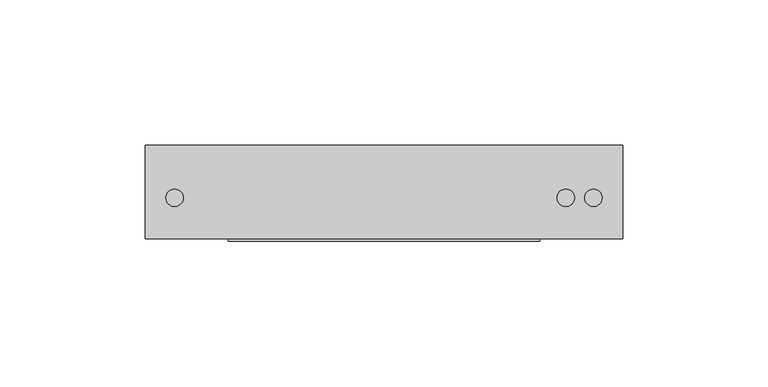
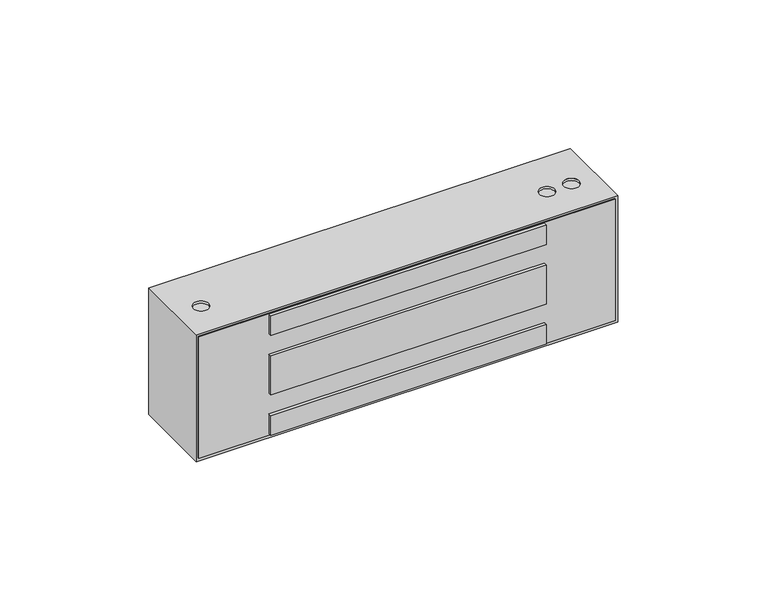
"""IFC4 building model written with IfcOpenShell, lengths in millimetres: proxy geometry, Электромагнитный_замок_ML-300KB_с_уголком_AccordTec_R19 : Электромагнитный_замок_ML-300KB_с_уголком_AccordTec_R19."""

from ifc_helpers import new_model, si_unit, frame, origin, place, context, project, spatial, polyline, circle_curve, outline, extrude, source, transform, mapped, element, save
from ifc_brep_helpers import plane_surface, revolved_surface, advanced_brep


def generic_models_a4071390(model_context):
    return source(origin(), model_context, "Body", "SolidModel", [
        extrude(outline(polyline([(135.47, -1.0), (28.47, -1.0), (28.47, 1.0), (135.47, 1.0), (135.47, -1.0)])), frame((0.0, 0.0, 42.5), z_axis=(0.0, 0.0, 1.0), x_axis=(1.0, 0.0, 0.0)), (0.0, 0.0, 1.0), 8.0),
        extrude(outline(polyline([(135.47, -1.0), (28.47, -1.0), (28.47, 1.0), (135.47, 1.0), (135.47, -1.0)])), frame((0.0, 0.0, 18.0), z_axis=(0.0, 0.0, 1.0), x_axis=(1.0, 0.0, 0.0)), (0.0, 0.0, 1.0), 16.0),
        extrude(outline(polyline([(135.47, -1.0), (28.47, -1.0), (28.47, 1.0), (135.47, 1.0), (135.47, -1.0)])), frame((0.0, 0.0, 1.5), z_axis=(0.0, 0.0, 1.0), x_axis=(1.0, 0.0, 0.0)), (0.0, 0.0, 1.0), 8.0),
        extrude(outline(polyline([(51.0, 163.0), (51.0, 1.0), (1.0, 1.0), (1.0, 163.0), (51.0, 163.0)]), holes=[polyline([(50.5, 28.47), (50.5, 135.47), (42.5, 135.47), (42.5, 28.47), (50.5, 28.47)]), polyline([(34.0, 28.47), (34.0, 135.47), (18.0, 135.47), (18.0, 28.47), (34.0, 28.47)]), polyline([(9.5, 28.47), (9.5, 135.47), (1.5, 135.47), (1.5, 28.47), (9.5, 28.47)])]), frame((0.0, 0.0, 0.0), z_axis=(0.0, 1.0, 0.0), x_axis=(0.0, 0.0, 1.0)), (0.0, 0.0, 1.0), 1.0),
        advanced_brep(
        [(164.0, 32.0, 52.0), (0.0, 32.0, 52.0), (0.0, 0.0, 52.0), (164.0, 0.0, 52.0), (7.0, 14.0, 52.0), (13.0, 14.0, 52.0), (141.5, 14.0, 52.0), (147.5, 14.0, 52.0), (151.0, 14.0, 52.0), (157.0, 14.0, 52.0), (164.0, 32.0, 0.0), (164.0, 0.0, 0.0), (0.0, 0.0, 0.0), (0.0, 32.0, 0.0), (4.0, 14.0, 0.0), (16.0, 14.0, 0.0), (148.0, 14.0, 0.0), (160.0, 14.0, 0.0), (1.0, 0.0, 51.0), (163.0, 0.0, 51.0), (163.0, 0.0, 1.0), (1.0, 0.0, 1.0), (4.0, 14.0, 1.0), (16.0, 14.0, 1.0), (148.0, 14.0, 1.0), (160.0, 14.0, 1.0), (163.0, 1.0, 51.0), (1.0, 1.0, 51.0), (1.0, 1.0, 1.0), (163.0, 1.0, 1.0), (7.0, 14.0, 51.0), (13.0, 14.0, 51.0), (141.5, 14.0, 51.0), (147.5, 14.0, 51.0), (151.0, 14.0, 51.0), (157.0, 14.0, 51.0)],
        [
            (0, 1),
            (1, 2),
            (2, 3),
            (3, 0),
            (4, 5, circle_curve(frame((10.0, 14.0, 52.0), z_axis=(0.0, 0.0, -1.0), x_axis=(1.0, 0.0, 0.0)), 3.0)),
            (5, 4, circle_curve(frame((10.0, 14.0, 52.0), z_axis=(0.0, 0.0, -1.0), x_axis=(1.0, 0.0, 0.0)), 3.0)),
            (6, 7, circle_curve(frame((144.5, 14.0, 52.0), z_axis=(0.0, 0.0, -1.0), x_axis=(1.0, 0.0, 0.0)), 3.0)),
            (7, 6, circle_curve(frame((144.5, 14.0, 52.0), z_axis=(0.0, 0.0, -1.0), x_axis=(1.0, 0.0, 0.0)), 3.0)),
            (8, 9, circle_curve(frame((154.0, 14.0, 52.0), z_axis=(0.0, 0.0, -1.0), x_axis=(1.0, 0.0, 0.0)), 3.0)),
            (9, 8, circle_curve(frame((154.0, 14.0, 52.0), z_axis=(0.0, 0.0, -1.0), x_axis=(1.0, 0.0, 0.0)), 3.0)),
            (10, 11),
            (11, 12),
            (12, 13),
            (13, 10),
            (14, 15, circle_curve(frame((10.0, 14.0, 0.0), z_axis=(0.0, 0.0, 1.0), x_axis=(1.0, 0.0, 0.0)), 6.0)),
            (15, 14, circle_curve(frame((10.0, 14.0, 0.0), z_axis=(0.0, 0.0, 1.0), x_axis=(1.0, 0.0, 0.0)), 6.0)),
            (16, 17, circle_curve(frame((154.0, 14.0, 0.0), z_axis=(0.0, 0.0, 1.0), x_axis=(1.0, 0.0, 0.0)), 6.0)),
            (17, 16, circle_curve(frame((154.0, 14.0, 0.0), z_axis=(0.0, 0.0, 1.0), x_axis=(1.0, 0.0, 0.0)), 6.0)),
            (0, 10),
            (13, 1),
            (12, 2),
            (11, 3),
            (18, 19),
            (19, 20),
            (20, 21),
            (21, 18),
            (22, 23, circle_curve(frame((10.0, 14.0, 1.0), z_axis=(0.0, 0.0, -1.0), x_axis=(1.0, 0.0, 0.0)), 6.0)),
            (23, 22, circle_curve(frame((10.0, 14.0, 1.0), z_axis=(0.0, 0.0, -1.0), x_axis=(1.0, 0.0, 0.0)), 6.0)),
            (24, 25, circle_curve(frame((154.0, 14.0, 1.0), z_axis=(0.0, 0.0, -1.0), x_axis=(1.0, 0.0, 0.0)), 6.0)),
            (25, 24, circle_curve(frame((154.0, 14.0, 1.0), z_axis=(0.0, 0.0, -1.0), x_axis=(1.0, 0.0, 0.0)), 6.0)),
            (23, 15),
            (14, 22),
            (25, 17),
            (16, 24),
            (26, 27),
            (27, 28),
            (28, 29),
            (29, 26),
            (26, 19),
            (18, 27),
            (21, 28),
            (20, 29),
            (30, 31, circle_curve(frame((10.0, 14.0, 51.0), z_axis=(0.0, 0.0, 1.0), x_axis=(1.0, 0.0, 0.0)), 3.0)),
            (31, 30, circle_curve(frame((10.0, 14.0, 51.0), z_axis=(0.0, 0.0, 1.0), x_axis=(1.0, 0.0, 0.0)), 3.0)),
            (32, 33, circle_curve(frame((144.5, 14.0, 51.0), z_axis=(0.0, 0.0, 1.0), x_axis=(1.0, 0.0, 0.0)), 3.0)),
            (33, 32, circle_curve(frame((144.5, 14.0, 51.0), z_axis=(0.0, 0.0, 1.0), x_axis=(1.0, 0.0, 0.0)), 3.0)),
            (34, 35, circle_curve(frame((154.0, 14.0, 51.0), z_axis=(0.0, 0.0, 1.0), x_axis=(1.0, 0.0, 0.0)), 3.0)),
            (35, 34, circle_curve(frame((154.0, 14.0, 51.0), z_axis=(0.0, 0.0, 1.0), x_axis=(1.0, 0.0, 0.0)), 3.0)),
            (31, 5),
            (4, 30),
            (33, 7),
            (6, 32),
            (35, 9),
            (8, 34),
        ],
        [
            plane_surface(frame((0.0, 32.0, 52.0), z_axis=(0.0, 0.0, 1.0), x_axis=(-1.0, 0.0, 0.0))),
            plane_surface(frame((0.0, 32.0, 0.0), z_axis=(0.0, 0.0, -1.0), x_axis=(1.0, 0.0, 0.0))),
            plane_surface(frame((164.0, 32.0, 52.0), z_axis=(0.0, 1.0, 0.0), x_axis=(0.0, 0.0, -1.0))),
            plane_surface(frame((0.0, 32.0, 52.0), z_axis=(-1.0, 0.0, 0.0), x_axis=(0.0, 0.0, -1.0))),
            plane_surface(frame((0.0, 0.0, 52.0), z_axis=(0.0, -1.0, 0.0), x_axis=(0.0, 0.0, -1.0))),
            plane_surface(frame((164.0, 0.0, 52.0), z_axis=(1.0, 0.0, 0.0), x_axis=(0.0, 0.0, -1.0))),
            plane_surface(frame((16.0, 14.0, 1.0), z_axis=(0.0, 0.0, -1.0), x_axis=(0.0, 1.0, 0.0))),
            revolved_surface(polyline([(16.0, 14.0, 1.0), (16.0, 14.0, 0.0)]), (10.0, 14.0, -1.0), (0.0, 0.0, 1.0)),
            revolved_surface(polyline([(160.0, 14.0, 1.0), (160.0, 14.0, 0.0)]), (154.0, 14.0, 0.0), (0.0, 0.0, 1.0)),
            plane_surface(frame((1.0, 1.0, 51.0), z_axis=(0.0, -1.0, 0.0), x_axis=(1.0, 0.0, 0.0))),
            plane_surface(frame((163.0, -1.0, 51.0), z_axis=(0.0, 0.0, -1.0), x_axis=(0.0, 1.0, 0.0))),
            plane_surface(frame((1.0, -1.0, 51.0), z_axis=(1.0, 0.0, 0.0), x_axis=(0.0, 1.0, 0.0))),
            plane_surface(frame((1.0, -1.0, 1.0), z_axis=(0.0, 0.0, 1.0), x_axis=(0.0, 1.0, 0.0))),
            plane_surface(frame((163.0, -1.0, 1.0), z_axis=(-1.0, 0.0, 0.0), x_axis=(0.0, 1.0, 0.0))),
            plane_surface(frame((13.0, 14.0, 51.0), z_axis=(0.0, 0.0, 1.0), x_axis=(0.0, -1.0, 0.0))),
            revolved_surface(polyline([(13.0, 14.0, 51.0), (13.0, 14.0, 52.0)]), (10.0, 14.0, 53.0), (0.0, 0.0, -1.0)),
            revolved_surface(polyline([(147.5, 14.0, 51.0), (147.5, 14.0, 52.0)]), (144.5, 14.0, 52.0), (0.0, 0.0, -1.0)),
            revolved_surface(polyline([(157.0, 14.0, 51.0), (157.0, 14.0, 52.0)]), (154.0, 14.0, 52.0), (0.0, 0.0, -1.0)),
        ],
        [
            (0, [[1, 2, 3, 4], [5, 6], [7, 8], [9, 10]]),
            (1, [[11, 12, 13, 14], [15, 16], [17, 18]]),
            (2, [[-1, 19, -14, 20]]),
            (3, [[-2, -20, -13, 21]]),
            (4, [[-3, -21, -12, 22], [23, 24, 25, 26]]),
            (5, [[-4, -22, -11, -19]]),
            (6, [[27, 28]]),
            (6, [[29, 30]]),
            (7, [[-28, 31, -15, 32]]),
            (7, [[-27, -32, -16, -31]]),
            (8, [[-30, 33, -17, 34]]),
            (8, [[-29, -34, -18, -33]]),
            (9, [[35, 36, 37, 38]]),
            (10, [[-35, 39, -23, 40]]),
            (11, [[-36, -40, -26, 41]]),
            (12, [[-37, -41, -25, 42]]),
            (13, [[-38, -42, -24, -39]]),
            (14, [[43, 44]]),
            (14, [[45, 46]]),
            (14, [[47, 48]]),
            (15, [[-44, 49, -5, 50]]),
            (15, [[-43, -50, -6, -49]]),
            (16, [[-46, 51, -7, 52]]),
            (16, [[-45, -52, -8, -51]]),
            (17, [[-48, 53, -9, 54]]),
            (17, [[-47, -54, -10, -53]]),
        ],
    ),
    ])


if __name__ == "__main__":
    model = new_model("IFC4")
    model_context = context("Model", 3, world=origin())
    ifc_project = project(units=[si_unit("LENGTHUNIT", "METRE", prefix="MILLI")], contexts=[model_context])
    site = spatial("IfcSite", under=ifc_project)
    building = spatial("IfcBuilding", under=site)
    placement = place(None, origin())
    generic_models_shape = generic_models_a4071390(model_context)
    element("IfcBuildingElementProxy", 1, Name="Электромагнитный_замок_ML-300KB_с_уголком_AccordTec_R19 : Электромагнитный_замок_ML-300KB_с_уголком_AccordTec_R19", ObjectType="Электромагнитный_замок_ML-300KB_с_уголком_AccordTec_R19 : Электромагнитный_замок_ML-300KB_с_уголком_AccordTec_R19", at=placement, inside=building, context=model_context, shape_type="MappedRepresentation", body=[
        mapped(generic_models_shape, transform((0.0, 0.0, 0.0), x_axis=(1.0, 0.0, 0.0), y_axis=(0.0, 1.0, 0.0), z_axis=(0.0, 0.0, 1.0))),
    ])
    save(model, "model.ifc")
